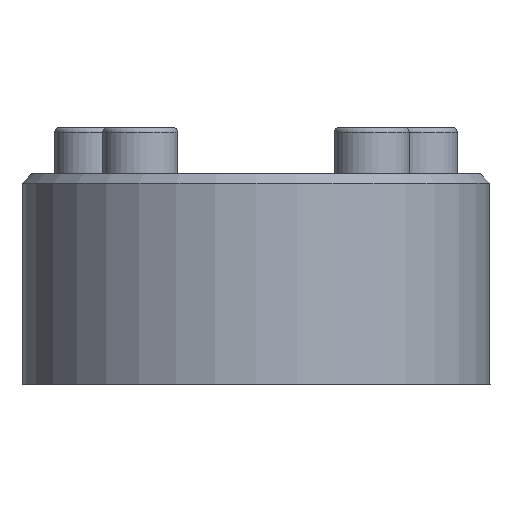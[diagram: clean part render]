
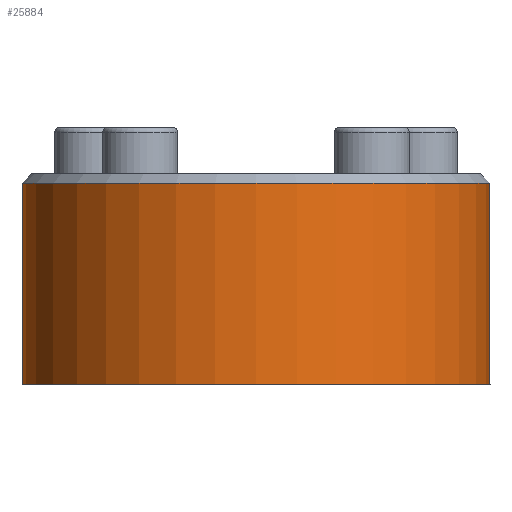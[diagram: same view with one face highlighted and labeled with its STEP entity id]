
A CAD part, front view. The second image highlights one B-rep face of the part: STEP entity #25884.
In plain terms, the highlighted cylindrical face has radius 50 mm (diameter 100 mm), a partial arc.
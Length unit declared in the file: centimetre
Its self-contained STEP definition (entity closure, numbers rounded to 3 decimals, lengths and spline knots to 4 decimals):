
#1560=CYLINDRICAL_SURFACE('',#27298,5.);
#3044=FACE_OUTER_BOUND('',#4537,.T.);
#4537=EDGE_LOOP('',(#18997,#18998,#18999,#19000));
#5819=LINE('',#32831,#8541);
#6647=LINE('',#36643,#9369);
#8541=VECTOR('',#28145,4.3);
#9369=VECTOR('',#29267,4.3);
#11300=CIRCLE('',#27295,5.);
#11301=CIRCLE('',#27299,5.);
#11313=VERTEX_POINT('',#32829);
#11314=VERTEX_POINT('',#32830);
#12530=VERTEX_POINT('',#36634);
#12531=VERTEX_POINT('',#36642);
#13787=EDGE_CURVE('',#11313,#11314,#5819,.T.);
#15070=EDGE_CURVE('',#11314,#12530,#11300,.T.);
#15073=EDGE_CURVE('',#12531,#12530,#6647,.T.);
#15074=EDGE_CURVE('',#12531,#11313,#11301,.T.);
#18997=ORIENTED_EDGE('',*,*,#15073,.T.);
#18998=ORIENTED_EDGE('',*,*,#15070,.F.);
#18999=ORIENTED_EDGE('',*,*,#13787,.F.);
#19000=ORIENTED_EDGE('',*,*,#15074,.F.);
#25884=ADVANCED_FACE('',(#3044),#1560,.T.);
#27295=AXIS2_PLACEMENT_3D('',#36636,#29257,#29258);
#27298=AXIS2_PLACEMENT_3D('',#36641,#29265,#29266);
#27299=AXIS2_PLACEMENT_3D('',#36644,#29268,#29269);
#28145=DIRECTION('',(0.,0.,1.));
#29257=DIRECTION('center_axis',(0.,0.,
1.));
#29258=DIRECTION('ref_axis',(-1.,0.,0.));
#29265=DIRECTION('center_axis',(0.,0.,
-1.));
#29266=DIRECTION('ref_axis',(-1.,0.,0.));
#29267=DIRECTION('',(0.,0.,1.));
#29268=DIRECTION('center_axis',(0.,0.,
-1.));
#29269=DIRECTION('ref_axis',(1.,0.,0.));
#32829=CARTESIAN_POINT('',(-5.,-10.5,-2.75));
#32830=CARTESIAN_POINT('',(-5.,-10.5,1.55));
#32831=CARTESIAN_POINT('',(-5.,-10.5,-2.75));
#36634=CARTESIAN_POINT('',(5.,-10.5,1.55));
#36636=CARTESIAN_POINT('Origin',(0.,-10.5,
1.55));
#36641=CARTESIAN_POINT('Origin',(0.,-10.5,
1.75));
#36642=CARTESIAN_POINT('',(5.,-10.5,-2.75));
#36643=CARTESIAN_POINT('',(5.,-10.5,-2.75));
#36644=CARTESIAN_POINT('Origin',(0.,-10.5,
-2.75));
